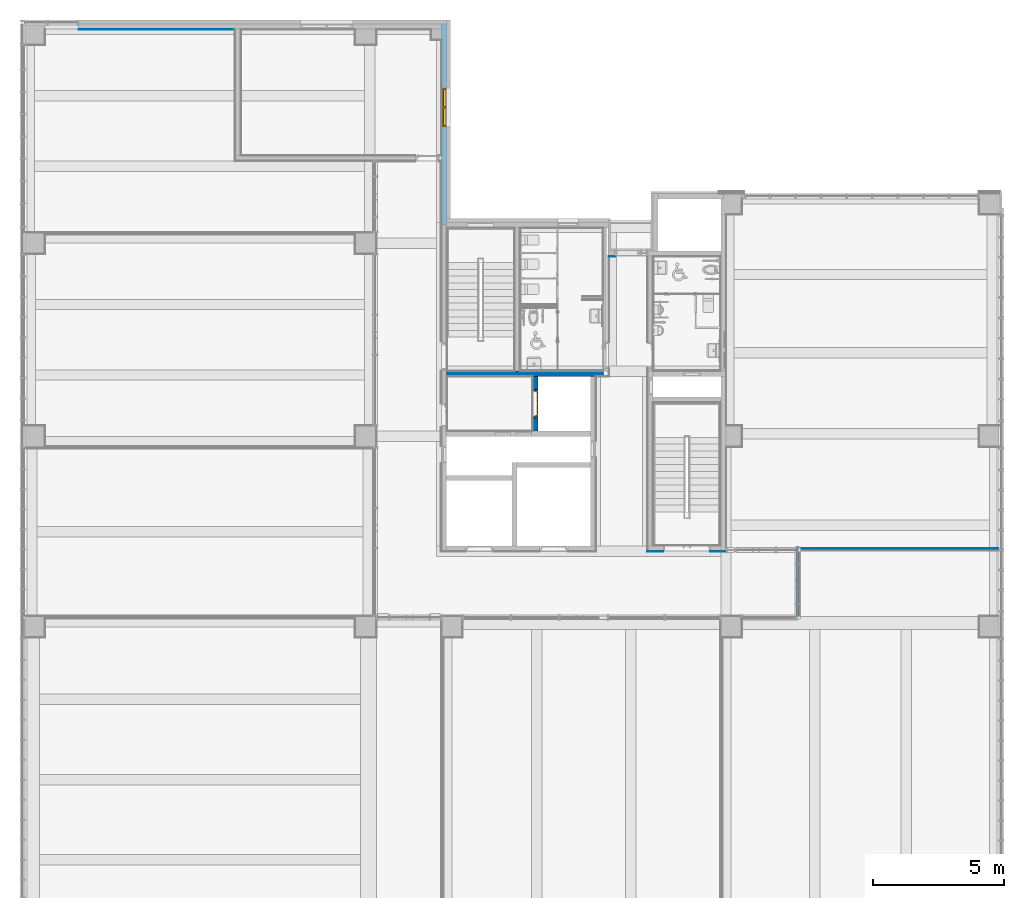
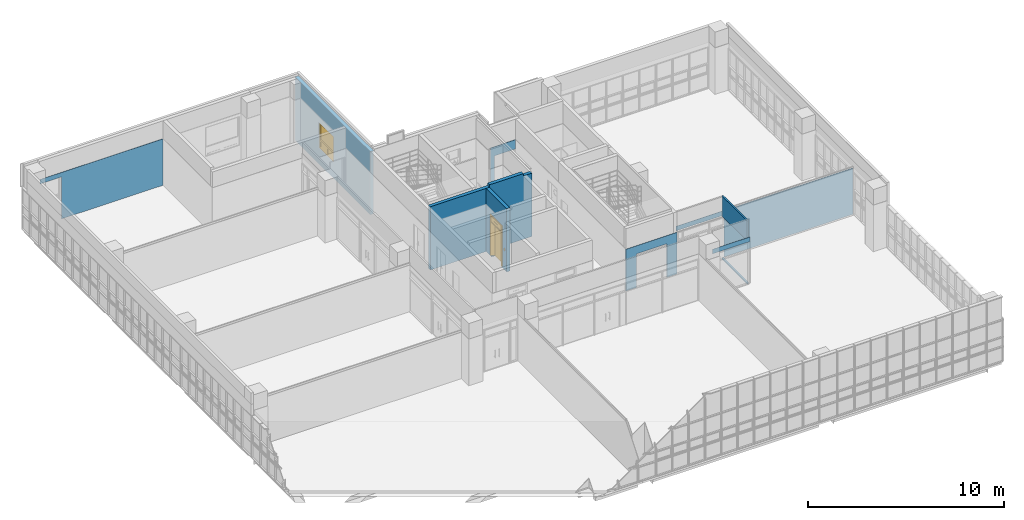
# One storey, part 64 of 76: 8 walls, 1 door, 1 window, 2 openings, plus 1 element that does not belong to this part.
"""IFC2X3 building model written with IfcOpenShell, lengths in millimetres."""

from ifc_helpers import new_model, entity, si_unit, converted_unit, derived_unit, direction, frame, frame_2d, origin, place, context, subcontext, project, spatial, polyline, rectangle, extrude, clip, bounded_halfspace, faceted_brep, source, transform, mapped, material, material_list, layer, layer_set, layer_usage, type_object, type_shapes, element, fill, save


model = new_model("IFC2X3")

# Units and contexts
model_context = context("Model", 3, precision=0.01, world=origin(), true_north=direction((6.123031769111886e-17, 1.0)))
body_context = subcontext(model_context, "Body", "Model", "MODEL_VIEW")
ifc_project = project(units=[si_unit("LENGTHUNIT", "METRE", prefix="MILLI"), si_unit("AREAUNIT", "SQUARE_METRE"), si_unit("VOLUMEUNIT", "CUBIC_METRE"), converted_unit("PLANEANGLEUNIT", "DEGREE", entity("IfcRatioMeasure", 0.017453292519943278), si_unit("PLANEANGLEUNIT", "RADIAN"), dimensions=[0, 0, 0, 0, 0, 0, 0]), si_unit("MASSUNIT", "GRAM", prefix="KILO"), derived_unit("MASSDENSITYUNIT", [(si_unit("MASSUNIT", "GRAM", prefix="KILO"), 1), (si_unit("LENGTHUNIT", "METRE"), -3)]), derived_unit("MOMENTOFINERTIAUNIT", [(si_unit("LENGTHUNIT", "METRE"), 4)]), si_unit("TIMEUNIT", "SECOND"), si_unit("FREQUENCYUNIT", "HERTZ"), si_unit("THERMODYNAMICTEMPERATUREUNIT", "DEGREE_CELSIUS"), derived_unit("THERMALTRANSMITTANCEUNIT", [(si_unit("MASSUNIT", "GRAM", prefix="KILO"), 1), (si_unit("THERMODYNAMICTEMPERATUREUNIT", "KELVIN"), -1), (si_unit("TIMEUNIT", "SECOND"), -3)]), derived_unit("VOLUMETRICFLOWRATEUNIT", [(si_unit("LENGTHUNIT", "METRE"), 3), (si_unit("TIMEUNIT", "SECOND"), -1)]), derived_unit("MASSFLOWRATEUNIT", [(si_unit("MASSUNIT", "GRAM", prefix="KILO"), 1), (si_unit("TIMEUNIT", "SECOND"), -1)]), derived_unit("ROTATIONALFREQUENCYUNIT", [(si_unit("TIMEUNIT", "SECOND"), -1)]), si_unit("ELECTRICCURRENTUNIT", "AMPERE"), si_unit("ELECTRICVOLTAGEUNIT", "VOLT"), si_unit("POWERUNIT", "WATT"), si_unit("FORCEUNIT", "NEWTON", prefix="KILO"), si_unit("ILLUMINANCEUNIT", "LUX"), si_unit("LUMINOUSFLUXUNIT", "LUMEN"), si_unit("LUMINOUSINTENSITYUNIT", "CANDELA"), derived_unit("USERDEFINED", [(si_unit("MASSUNIT", "GRAM", prefix="KILO"), -1), (si_unit("LENGTHUNIT", "METRE"), -2), (si_unit("TIMEUNIT", "SECOND"), 3), (si_unit("LUMINOUSFLUXUNIT", "LUMEN"), 1)]), derived_unit("SOUNDPOWERUNIT", [(si_unit("MASSUNIT", "GRAM", prefix="KILO"), 1), (si_unit("LENGTHUNIT", "METRE"), 2), (si_unit("TIMEUNIT", "SECOND"), -3)]), derived_unit("SOUNDPRESSUREUNIT", [(si_unit("MASSUNIT", "GRAM", prefix="KILO"), 1), (si_unit("LENGTHUNIT", "METRE"), -1), (si_unit("TIMEUNIT", "SECOND"), -2)]), derived_unit("LINEARVELOCITYUNIT", [(si_unit("LENGTHUNIT", "METRE"), 1), (si_unit("TIMEUNIT", "SECOND"), -1)]), si_unit("PRESSUREUNIT", "PASCAL"), derived_unit("USERDEFINED", [(si_unit("LENGTHUNIT", "METRE"), -2), (si_unit("MASSUNIT", "GRAM", prefix="KILO"), 1), (si_unit("TIMEUNIT", "SECOND"), -2)]), derived_unit("LINEARFORCEUNIT", [(si_unit("MASSUNIT", "GRAM", prefix="KILO"), 1), (si_unit("LENGTHUNIT", "METRE"), 1), (si_unit("TIMEUNIT", "SECOND"), -2), (si_unit("LENGTHUNIT", "METRE"), -1)]), derived_unit("PLANARFORCEUNIT", [(si_unit("MASSUNIT", "GRAM", prefix="KILO"), 1), (si_unit("LENGTHUNIT", "METRE"), 1), (si_unit("TIMEUNIT", "SECOND"), -2), (si_unit("LENGTHUNIT", "METRE"), -2)])], contexts=[model_context])

# Site, building, storey
site_placement = place(None, frame((-14167.972527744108, -657.2125860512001, 0.0)))
site = spatial("IfcSite", under=ifc_project, at=site_placement, Name="Default", CompositionType="ELEMENT")
building_placement = place(site_placement, origin())
building = spatial("IfcBuilding", under=site, at=building_placement, Name="Sample Building", CompositionType="ELEMENT")
storey_placement = place(building_placement, frame((0.0, 0.0, 9300.0)))
storey = spatial("IfcBuildingStorey", under=building, at=storey_placement, Name="지상 3층", CompositionType="ELEMENT", Elevation=9300.000000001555)

# Wall
ifc_material_1 = material(Name="KBIMS-콘크리트")
ifc_layer_1 = layer(ifc_material_1, 200.0)
ifc_layer_set_1 = layer_set([ifc_layer_1], Name="기본 벽:WA111-철근콘크리트구조 벽 200mm_CW1")
wall_type_1 = type_object("IfcWallType", Name="기본 벽:WA111-철근콘크리트구조 벽 200mm_CW1", PredefinedType="STANDARD", material=ifc_layer_set_1)
wall_1_placement = place(storey_placement, frame((30267.963761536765, 22357.21231133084, -2.297844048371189e-09)))
element("IfcWall", 1, at=wall_1_placement, inside=storey, type_object=wall_type_1, Name="기본 벽:WA111-철근콘크리트구조 벽 200mm_CW1", ObjectType="기본 벽:WA111-철근콘크리트구조 벽 200mm_CW1", context=body_context, shape_type="Brep", body=[
    faceted_brep([(0.0, -100.0, 0.0), (3298.162052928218, -100.0, 0.0), (3300.0087295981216, -100.0, 0.0), (3500.0087295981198, -100.0, 0.0), (5500.008729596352, -100.0, 0.0), (5700.008729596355, -100.0, 0.0), (6000.000036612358, -100.0, 0.0), (6000.000036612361, -100.0, 3950.0), (5899.991380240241, -100.0, 3950.0), (5700.008729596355, -100.0, 3950.0), (5500.0087295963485, -100.0, 3950.0), (5500.0087295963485, -100.0, 4100.0), (3500.0087295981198, -100.0, 4100.0), (3500.0087295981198, -100.0, 3950.0), (3300.0087295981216, -100.0, 3950.0), (0.0, -100.0, 3950.0), (0.0, -100.0, 80.0), (6000.000036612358, 100.0, 0.0), (2800.0087295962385, 100.0, 0.0), (2600.0087295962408, 100.0, 0.0), (0.0, 100.0, 0.0), (0.0, 100.0, 3950.0), (3500.0087295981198, 100.0, 3950.0), (3500.0087295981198, 100.0, 4100.0), (5500.0087295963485, 100.0, 4100.0), (5500.0087295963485, 100.0, 3950.0), (6000.000036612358, 100.0, 3950.0), (6000.000036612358, 100.0, 3900.0), (6000.000036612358, 100.0, 3700.0)], [[[0, 1, 2, 3, 4, 5, 6, 7, 8, 9, 10, 11, 12, 13, 14, 15, 16]], [[17, 18, 19, 20, 21, 22, 23, 24, 25, 26, 27, 28]], [[6, 5, 4, 3, 2, 1, 0, 20, 19, 18, 17]], [[12, 11, 24, 23]], [[20, 0, 16, 15, 21]], [[6, 17, 28, 27, 26, 7]], [[13, 22, 21, 15, 14]], [[22, 13, 12, 23]], [[10, 25, 24, 11]], [[25, 10, 9, 8, 7, 26]]]),
])

# Wall, opening, door
wall_2_placement = place(storey_placement, frame((33667.97249113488, 22257.212311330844, -2.297844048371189e-09), z_axis=(0.0, 0.0, 1.0), x_axis=(0.0, -1.0, 0.0)))
wall_2 = element("IfcWall", 2, at=wall_2_placement, inside=storey, type_object=wall_type_1, Name="기본 벽:WA111-철근콘크리트구조 벽 200mm_CW1", ObjectType="기본 벽:WA111-철근콘크리트구조 벽 200mm_CW1", context=body_context, shape_type="Brep", body=[
    faceted_brep([(2100.0, -100.0, 0.0), (2100.0, -100.0, 3950.0), (0.0, -100.0, 3950.0), (0.0, -100.0, 0.0), (542.891388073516, -100.0, 0.0), (542.891388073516, -100.0, 80.0), (500.0000016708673, -100.0, 80.0), (500.0000016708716, -100.0, 2630.0), (1600.0, -100.0, 2630.0), (1600.0, -100.0, 80.0), (1557.108615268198, -100.0, 80.0), (1557.1086152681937, -100.0, 0.0), (2100.0, 100.0, 0.0), (0.0, 100.0, 0.0), (0.0, 100.0, 3950.0), (2100.0, 100.0, 3950.0), (500.0000016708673, 100.0, 2630.0), (500.0000016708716, 100.0, 80.0), (1600.0, 100.0, 80.0), (1600.0, 100.0, 2630.0), (1529.7770699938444, 98.15332333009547, 0.0), (570.2229333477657, 98.15332333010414, 0.0), (570.2229333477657, 98.15332333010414, 80.0), (1529.7770699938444, 98.15332333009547, 80.0)], [[[0, 1, 2, 3, 4, 5, 6, 7, 8, 9, 10, 11]], [[12, 13, 14, 15], [16, 17, 18, 19]], [[13, 12, 0, 11, 20, 21, 4, 3]], [[13, 3, 2, 14]], [[0, 12, 15, 1]], [[2, 1, 15, 14]], [[21, 22, 5, 4]], [[22, 21, 20, 23]], [[23, 20, 11, 10]], [[7, 6, 17, 16]], [[8, 7, 16, 19]], [[9, 8, 19, 18]], [[18, 17, 6, 5, 22, 23, 10, 9]]]),
])
opening_1_placement = place(wall_2_placement, frame((500.0000016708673, -100.0, 80.0)))
opening_1 = element("IfcOpeningElement", 3, at=opening_1_placement, cuts=wall_2, Name="EE111-엘리베이터문(문):EE111-엘리베이터문(13인승)_1100x2550:1", ObjectType="Opening", context=body_context, shape_type="SweptSolid", body=[
    extrude(rectangle(XDim=2549.999999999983, YDim=1099.9999999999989, at=frame_2d((1274.9999999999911, 550.0000000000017), x_axis=(1.0, 0.0))), frame((0.0, 0.0, 0.0), z_axis=(0.0, 1.0, 0.0), x_axis=(0.0, 0.0, 1.0)), (0.0, 0.0, 1.0), 200.0),
])
ifc_material_2 = material(Name="<Unnamed>")
ifc_material_list_1 = material_list([ifc_material_2, ifc_material_2, ifc_material_2, ifc_material_2])
door_style = type_object("IfcDoorStyle", Name="EE111-엘리베이터문(문):EE111-엘리베이터문(13인승)_1100x2550", ConstructionType="NOTDEFINED", OperationType="DOUBLE_DOOR_SLIDING", ParameterTakesPrecedence=False, Sizeable=False, material=ifc_material_list_1)
shared_shape_1 = source(origin(), body_context, "Body", "Brep", [
    faceted_brep([(-296.2736811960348, 220.43384628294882, 1175.0), (-313.5941892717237, 220.4338462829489, 1145.0), (-330.9146973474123, 220.43384628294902, 1175.0), (-296.2736811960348, 215.04269782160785, 1175.0), (-330.9146973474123, 215.0426978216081, 1175.0), (-313.5941892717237, 215.04269782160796, 1145.0)], [[[0, 1, 2]], [[3, 4, 5]], [[1, 0, 3, 5]], [[2, 1, 5, 4]], [[0, 2, 4, 3]]]),
    faceted_brep([(-330.9146973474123, 220.43384628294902, 1225.0), (-296.2736811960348, 220.43384628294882, 1225.0), (-296.2736811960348, 215.04269782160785, 1225.0), (-330.9146973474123, 215.04269782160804, 1225.0), (-313.5941892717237, 220.4338462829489, 1255.0), (-313.5941892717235, 215.04269782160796, 1255.0)], [[[0, 1, 2, 3]], [[4, 0, 3, 5]], [[1, 4, 5, 2]], [[2, 5, 3]], [[1, 0, 4]]]),
    faceted_brep([(-351.5567877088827, 215.0426978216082, 1277.0326998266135), (-275.63159083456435, 215.04269782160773, 1277.0326998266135), (-275.63159083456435, 215.04269782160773, 1122.967300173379), (-351.5567877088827, 215.0426978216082, 1122.967300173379), (-351.55678770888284, 200.0, 1277.0326998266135), (-351.55678770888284, 200.0, 1122.967300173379), (-275.6315908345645, 200.0, 1122.967300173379), (-275.6315908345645, 200.0, 1277.0326998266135)], [[[0, 1, 2, 3]], [[4, 5, 6, 7]], [[1, 0, 4, 7]], [[2, 1, 7, 6]], [[3, 2, 6, 5]], [[0, 3, 5, 4]]]),
    faceted_brep([(-60.0, 200.0, 2550.0), (-60.0, 240.0, 2550.0), (-60.0, 240.0, 0.0), (-60.0, 200.0, 0.0), (703.014298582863, 240.0, 2550.0), (703.014298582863, 240.0, 2500.0), (27.911234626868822, 240.0, 2500.0), (27.911234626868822, 240.0, 2150.0), (703.014298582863, 240.0, 2150.0), (703.014298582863, 240.0, 2100.0), (27.911234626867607, 240.0, 2100.0), (27.911234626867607, 240.0, 0.0), (978.5926496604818, 40.0, 0.0), (1078.5926496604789, 240.0, 0.0), (1160.0, 240.0, 0.0), (1160.0, 200.0, 0.0), (1100.0, 200.0, 0.0), (1000.0, 0.0, 0.0), (555.0, 0.0, 0.0), (555.0, 40.0, 0.0), (0.0, 200.0, 2550.0), (0.0, 200.0, 0.0), (100.0, 0.0, 2550.0), (100.0, 0.0, 0.0), (1000.0, 0.0, 2550.0), (545.0, 0.0, 0.0), (545.0, 0.0, 2100.0), (555.0, 0.0, 2100.0), (545.0, 40.0, 0.0), (545.0, 40.0, 2100.0), (555.0, 40.0, 2100.0), (1100.0, 200.0, 2550.0), (1160.0, 200.0, 2550.0), (1160.0, 240.0, 2550.0), (1078.5926496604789, 240.0, 2100.0), (1078.5926496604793, 240.0, 2150.0), (1078.5926496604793, 240.0, 2500.0), (978.5926496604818, 40.0, 2100.0), (127.91123462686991, 40.0, 0.0), (127.91123462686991, 40.0, 2100.0), (1078.5926496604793, 214.08728771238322, 2150.0), (1078.5926496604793, 214.08728771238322, 2500.0), (27.911234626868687, 214.0872877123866, 2500.0), (27.911234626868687, 214.0872877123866, 2150.0), (550.0, 214.08728771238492, 2370.0), (410.8272722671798, 214.08728771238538, 2370.0), (410.8272722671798, 214.08728771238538, 2300.0), (550.0, 214.08728771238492, 2300.0), (789.172727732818, 214.08728771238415, 2300.0), (789.172727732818, 214.08728771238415, 2370.0), (550.0, 208.4787281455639, 2370.0), (410.8272722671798, 208.47872814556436, 2370.0), (410.8272722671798, 208.47872814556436, 2300.0), (789.172727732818, 208.47872814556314, 2300.0), (789.172727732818, 208.47872814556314, 2370.0), (550.0, 208.4787281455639, 2300.0)], [[[0, 1, 2, 3]], [[2, 1, 4, 5, 6, 7, 8, 9, 10, 11]], [[12, 13, 14, 15, 16, 17, 18, 19]], [[20, 0, 3, 21]], [[22, 20, 21, 23]], [[24, 22, 23, 25, 26, 27, 18, 17]], [[25, 28, 29, 26]], [[19, 18, 27, 30]], [[31, 24, 17, 16]], [[32, 31, 16, 15]], [[33, 32, 15, 14]], [[4, 33, 14, 13, 34, 9, 8, 35, 36, 5]], [[13, 12, 37, 34]], [[38, 11, 10, 39]], [[38, 39, 29, 28]], [[37, 12, 19, 30]], [[1, 0, 20, 22, 24, 31, 32, 33, 4]], [[40, 41, 36, 35]], [[41, 42, 6, 5, 36]], [[42, 43, 7, 6]], [[43, 42, 41, 40], [44, 45, 46, 47, 48, 49]], [[50, 51, 45, 44]], [[51, 52, 46, 45]], [[53, 54, 49, 48]], [[54, 50, 44, 49]], [[50, 54, 53, 55, 52, 51]], [[10, 9, 34, 37, 30, 27, 26, 29, 39]], [[43, 40, 35, 8, 7]], [[52, 55, 47, 46]], [[55, 53, 48, 47]], [[21, 3, 2, 11, 38, 28, 25, 23]]]),
])
type_shapes(door_style, [shared_shape_1])
door_placement = place(opening_1_placement, frame((1100.0, 200.0, 2.2973836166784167e-09), z_axis=(0.0, 0.0, 1.0), x_axis=(-1.0, 0.0, 0.0)))
door = element("IfcDoor", 4, at=door_placement, inside=storey, type_object=door_style, material=ifc_material_2, Name="EE111-엘리베이터문(문):EE111-엘리베이터문(13인승)_1100x2550", ObjectType="EE111-엘리베이터문(문):EE111-엘리베이터문(13인승)_1100x2550", OverallHeight=2549.9999999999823, OverallWidth=1100.0000000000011, context=body_context, shape_type="MappedRepresentation", body=[
    mapped(shared_shape_1, transform((0.0, 0.0, 0.0), scale=1.0)),
])
fill(opening_1, door)

# Wall, opening, window
ifc_layer_2 = layer(ifc_material_1, 200.0)
ifc_layer_set_2 = layer_set([ifc_layer_2], Name="기본 벽:WA111-철근콘크리트구조 벽 200mm_W1")
ifc_layer_usage = layer_usage(ifc_layer_set_2, "AXIS2", "NEGATIVE", 100.0)
wall_type_2 = type_object("IfcWallType", Name="기본 벽:WA111-철근콘크리트구조 벽 200mm_W1", PredefinedType="STANDARD", material=ifc_layer_set_2)
wall_3_placement = place(storey_placement, frame((30167.96376153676, 28057.212307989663, -2.297844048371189e-09), z_axis=(0.0, 0.0, 1.0), x_axis=(0.0, 1.0, 0.0)))
wall_3 = element("IfcWallStandardCase", 5, at=wall_3_placement, inside=storey, type_object=wall_type_2, material=ifc_layer_usage, Name="기본 벽:WA111-철근콘크리트구조 벽 200mm_W1", ObjectType="기본 벽:WA111-철근콘크리트구조 벽 200mm_W1", context=body_context, shape_type="Clipping", body=[
    clip(extrude(rectangle(XDim=7699.999987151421, YDim=200.00000000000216, at=frame_2d((3849.9999935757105, -2.1671553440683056e-12), x_axis=(-1.0, 0.0))), origin(), (0.0, 0.0, 1.0), 3950.0000000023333), bounded_halfspace(frame((0.0, -100.0, 3950.0), z_axis=(0.0, 0.0, -1.0), x_axis=(0.0, -1.0, 0.0)), True, frame((0.0, -100.0, 3950.0), z_axis=(0.0, 0.0, -1.0), x_axis=(0.0, -1.0, 0.0)), polyline([(0.0, 0.0), (-60960.0, 0.0), (-60960.0, -30480.09028257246), (-60960.0, -2164080.0941984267), (-60960.0, -2286000.0), (-60960.0, -2346960.0), (0.0, -2346960.0), (0.0, 0.0)]))),
])
opening_2_placement = place(wall_3_placement, frame((3749.9999871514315, -100.0, 1000.0)))
opening_2 = element("IfcOpeningElement", 6, at=opening_2_placement, cuts=wall_3, Name="WD842-2단 하부 더블 프로젝트 창(스테인리스 스틸):WD842-2단 하부 더블 프로젝트 창(스테인리스 스틸)_1500x1600mm:1", ObjectType="Opening", context=body_context, shape_type="SweptSolid", body=[
    extrude(rectangle(XDim=1600.0000000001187, YDim=1499.9999999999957, at=frame_2d((800.0000000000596, 749.9999999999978), x_axis=(1.0, 0.0))), frame((0.0, 0.0, 0.0), z_axis=(0.0, 1.0, 0.0), x_axis=(0.0, 0.0, 1.0)), (0.0, 0.0, 1.0), 200.0),
])
ifc_material_3 = material(Name="KBIMS-스테인리스 스틸_도금")
ifc_material_4 = material(Name="KBIMS-유리")
ifc_material_list_2 = material_list([ifc_material_3, ifc_material_4, ifc_material_3, ifc_material_4, ifc_material_3, ifc_material_3, ifc_material_4])
ifc_material_list_3 = material_list([ifc_material_3, ifc_material_4, ifc_material_3, ifc_material_4, ifc_material_3, ifc_material_3, ifc_material_4])
window_style = type_object("IfcWindowStyle", Name="WD842-2단 하부 더블 프로젝트 창(스테인리스 스틸):WD842-2단 하부 더블 프로젝트 창(스테인리스 스틸)_1500x1600mm", ConstructionType="NOTDEFINED", OperationType="NOTDEFINED", ParameterTakesPrecedence=False, Sizeable=False, material=ifc_material_list_3)
shared_shape_2 = source(origin(), body_context, "Body", "Brep", [
    faceted_brep([(1440.0, 37.49999999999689, 470.0), (780.0, 37.49999999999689, 470.0), (780.0, 162.4999999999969, 470.0), (1440.0, 162.4999999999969, 470.0), (1500.0, 162.4999999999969, 530.0), (1440.0, 162.4999999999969, 530.0), (60.0, 162.4999999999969, 530.0), (0.0, 162.4999999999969, 530.0), (0.0, 37.49999999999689, 530.0), (60.0, 37.49999999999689, 530.0), (1440.0, 37.49999999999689, 530.0), (1500.0, 37.49999999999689, 530.0), (60.0, 37.49999999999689, 470.0), (60.0, 37.49999999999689, 60.0), (60.0, 162.4999999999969, 60.0), (60.0, 162.4999999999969, 470.0), (0.0, 162.4999999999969, 0.0), (0.0, 37.49999999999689, 0.0), (720.0, 37.49999999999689, 60.0), (720.0, 162.4999999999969, 60.0), (1500.0, 162.4999999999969, 0.0), (1500.0, 37.49999999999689, 0.0), (1440.0, 162.4999999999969, 60.0), (1440.0, 37.49999999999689, 60.0), (720.0, 37.49999999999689, 470.0), (780.0, 37.49999999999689, 60.0), (720.0, 162.4999999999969, 470.0), (780.0, 162.4999999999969, 60.0)], [[[0, 1, 2, 3]], [[4, 5, 6, 7, 8, 9, 10, 11]], [[12, 13, 14, 15]], [[7, 16, 17, 8]], [[13, 18, 19, 14]], [[16, 20, 21, 17]], [[3, 22, 23, 0]], [[8, 17, 21, 11, 10, 9], [12, 24, 18, 13], [0, 23, 25, 1]], [[11, 21, 20, 4]], [[14, 19, 26, 15], [22, 3, 2, 27], [4, 20, 16, 7, 6, 5]], [[19, 18, 24, 26]], [[2, 1, 25, 27]], [[22, 27, 25, 23]], [[15, 26, 24, 12]]], outer=[[True], [True], [True], [True], [True], [True], [True], [True, False, False], [True], [False, False, True], [True], [True], [True], [True]]),
    faceted_brep([(820.0, 151.0, 430.0), (820.0, 151.0, 100.0), (820.0, 139.0, 100.0), (820.0, 139.0, 430.0), (1400.0, 139.0, 100.0), (1400.0, 139.0, 430.0), (1400.0, 151.0, 100.0), (1400.0, 151.0, 430.0)], [[[0, 1, 2, 3]], [[3, 2, 4, 5]], [[5, 4, 6, 7]], [[0, 3, 5, 7]], [[1, 6, 4, 2]], [[7, 6, 1, 0]]]),
    faceted_brep([(1390.0, 151.0, 420.0), (830.0, 151.0, 420.0), (830.0, 160.0, 420.0), (1390.0, 160.0, 420.0), (1400.0, 139.0, 430.0), (820.0, 139.0, 430.0), (820.0, 151.0, 430.0), (1400.0, 151.0, 430.0), (1390.0, 130.0, 420.0), (830.0, 130.0, 420.0), (830.0, 139.0, 420.0), (1390.0, 139.0, 420.0), (1440.0, 160.0, 470.0), (780.0, 160.0, 470.0), (780.0, 130.0, 470.0), (1440.0, 130.0, 470.0), (830.0, 151.0, 110.0), (830.0, 160.0, 110.0), (820.0, 139.0, 100.0), (820.0, 151.0, 100.0), (830.0, 130.0, 110.0), (830.0, 139.0, 110.0), (780.0, 160.0, 60.0), (780.0, 130.0, 60.0), (1390.0, 151.0, 110.0), (1390.0, 160.0, 110.0), (1400.0, 139.0, 100.0), (1400.0, 151.0, 100.0), (1390.0, 130.0, 110.0), (1390.0, 139.0, 110.0), (1440.0, 160.0, 60.0), (1440.0, 130.0, 60.0)], [[[0, 1, 2, 3]], [[4, 5, 6, 7]], [[8, 9, 10, 11]], [[12, 13, 14, 15]], [[1, 16, 17, 2]], [[5, 18, 19, 6]], [[9, 20, 21, 10]], [[13, 22, 23, 14]], [[16, 24, 25, 17]], [[18, 26, 27, 19]], [[20, 28, 29, 21]], [[22, 30, 31, 23]], [[24, 0, 3, 25]], [[7, 6, 19, 27], [1, 0, 24, 16]], [[26, 4, 7, 27]], [[11, 10, 21, 29], [5, 4, 26, 18]], [[28, 8, 11, 29]], [[15, 14, 23, 31], [9, 8, 28, 20]], [[30, 12, 15, 31]], [[3, 2, 17, 25], [13, 12, 30, 22]]], outer=[[True], [True], [True], [True], [True], [True], [True], [True], [True], [True], [True], [True], [True], [True, False], [True], [False, True], [True], [True, False], [True], [False, True]]),
    faceted_brep([(100.0, 151.0, 430.0), (100.0, 139.0, 430.0), (680.0, 139.0, 430.0), (680.0, 151.0, 430.0), (100.0, 151.0, 100.0), (680.0, 151.0, 100.0), (680.0, 139.0, 100.0), (100.0, 139.0, 100.0)], [[[0, 1, 2, 3]], [[4, 5, 6, 7]], [[3, 5, 4, 0]], [[2, 6, 5, 3]], [[1, 7, 6, 2]], [[0, 4, 7, 1]]]),
    faceted_brep([(680.0, 139.0, 100.0), (680.0, 139.0, 430.0), (680.0, 151.0, 430.0), (680.0, 151.0, 100.0), (100.0, 151.0, 430.0), (100.0, 151.0, 100.0), (110.0, 151.0, 420.0), (670.0, 151.0, 420.0), (670.0, 151.0, 110.0), (110.0, 151.0, 110.0), (670.0, 160.0, 420.0), (670.0, 160.0, 110.0), (110.0, 160.0, 110.0), (110.0, 160.0, 420.0), (100.0, 139.0, 430.0), (100.0, 139.0, 100.0), (110.0, 130.0, 420.0), (110.0, 130.0, 110.0), (110.0, 139.0, 110.0), (110.0, 139.0, 420.0), (670.0, 130.0, 420.0), (670.0, 139.0, 420.0), (720.0, 160.0, 470.0), (60.0, 160.0, 470.0), (60.0, 130.0, 470.0), (720.0, 130.0, 470.0), (60.0, 160.0, 60.0), (60.0, 130.0, 60.0), (670.0, 130.0, 110.0), (670.0, 139.0, 110.0), (720.0, 160.0, 60.0), (720.0, 130.0, 60.0)], [[[0, 1, 2, 3]], [[2, 4, 5, 3], [6, 7, 8, 9]], [[8, 7, 10, 11]], [[6, 9, 12, 13]], [[14, 15, 5, 4]], [[16, 17, 18, 19]], [[7, 6, 13, 10]], [[1, 14, 4, 2]], [[20, 16, 19, 21]], [[22, 23, 24, 25]], [[23, 26, 27, 24]], [[9, 8, 11, 12]], [[15, 0, 3, 5]], [[17, 28, 29, 18]], [[26, 30, 31, 27]], [[21, 19, 18, 29], [14, 1, 0, 15]], [[28, 20, 21, 29]], [[25, 24, 27, 31], [16, 20, 28, 17]], [[30, 22, 25, 31]], [[10, 13, 12, 11], [23, 22, 30, 26]]], outer=[[True], [True, False], [True], [True], [True], [True], [True], [True], [True], [True], [True], [True], [True], [True], [True], [False, True], [True], [True, False], [True], [False, True]]),
    faceted_brep([(1440.0, 37.50000000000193, 1540.0), (60.0, 37.50000000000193, 1540.0), (60.0, 162.50000000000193, 1540.0), (1440.0, 162.50000000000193, 1540.0), (1500.0, 162.50000000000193, 1600.0), (0.0, 162.50000000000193, 1600.0), (0.0, 37.50000000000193, 1600.0), (1500.0, 37.50000000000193, 1600.0), (60.0, 37.50000000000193, 530.0), (60.0, 162.50000000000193, 530.0), (0.0, 162.50000000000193, 530.0), (0.0, 37.50000000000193, 530.0), (1440.0, 162.50000000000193, 530.0), (1440.0, 37.50000000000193, 530.0), (1500.0, 37.50000000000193, 530.0), (1500.0, 162.50000000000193, 530.0)], [[[0, 1, 2, 3]], [[4, 5, 6, 7]], [[1, 8, 9, 2]], [[5, 10, 11, 6]], [[3, 12, 13, 0]], [[0, 13, 14, 7, 6, 11, 8, 1]], [[7, 14, 15, 4]], [[2, 9, 10, 5, 4, 15, 12, 3]], [[12, 15, 14, 13]], [[8, 11, 10, 9]]]),
    faceted_brep([(60.0, 106.0, 1540.0), (60.0, 94.0, 1540.0), (1440.0, 94.0, 1540.0), (1440.0, 106.0, 1540.0), (1440.0, 106.0, 530.0), (60.0, 106.0, 530.0), (1440.0, 94.0, 530.0), (60.0, 94.0, 530.0)], [[[0, 1, 2, 3]], [[3, 4, 5, 0]], [[2, 6, 4, 3]], [[1, 7, 6, 2]], [[0, 5, 7, 1]], [[4, 6, 7, 5]]]),
])
type_shapes(window_style, [shared_shape_2])
window_placement = place(opening_2_placement, frame((0.0, 0.0, 2.2973836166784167e-09)))
window = element("IfcWindow", 7, at=window_placement, inside=storey, type_object=window_style, material=ifc_material_list_2, Name="WD842-2단 하부 더블 프로젝트 창(스테인리스 스틸):WD842-2단 하부 더블 프로젝트 창(스테인리스 스틸)_1500x1600mm", ObjectType="WD842-2단 하부 더블 프로젝트 창(스테인리스 스틸):WD842-2단 하부 더블 프로젝트 창(스테인리스 스틸)_1500x1600mm", OverallHeight=1600.0000000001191, OverallWidth=1499.9999999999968, context=body_context, shape_type="MappedRepresentation", body=[
    mapped(shared_shape_2, transform((0.0, 0.0, 0.0), scale=1.0)),
])
fill(opening_2, window)

# Walls
ifc_material_5 = material(Name="KBIMS-시멘트 벽돌")
ifc_layer_3 = layer(ifc_material_5, 90.0)
ifc_layer_set_3 = layer_set([ifc_layer_3], Name="기본 벽:WA211-시멘트벽돌(일반) 벽 (0.5B) 90mm")
wall_type_3 = type_object("IfcWallType", Name="기본 벽:WA211-시멘트벽돌(일반) 벽 (0.5B) 90mm", PredefinedType="STANDARD", material=ifc_layer_set_3)
wall_4_placement = place(storey_placement, frame((43717.972491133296, 13057.21238308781, -2.297844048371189e-09), z_axis=(0.0, 0.0, 1.0), x_axis=(0.0, 1.0, 0.0)))
element("IfcWall", 8, at=wall_4_placement, inside=storey, type_object=wall_type_3, Name="기본 벽:WA211-시멘트벽돌(일반) 벽 (0.5B) 90mm", ObjectType="기본 벽:WA211-시멘트벽돌(일반) 벽 (0.5B) 90mm", context=body_context, shape_type="Brep", body=[
    faceted_brep([(0.0, -45.0, 0.0), (2594.9652949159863, -45.0, 0.0), (2594.9652949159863, -45.0, 80.0), (0.0, -45.0, 80.0), (2594.9652949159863, 45.0, 0.0), (2504.965294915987, 45.0, 0.0), (0.0, 45.0, 0.0), (0.0, 45.0, 80.0), (2504.965294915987, 45.0, 80.0), (2594.9652949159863, 45.0, 80.0)], [[[0, 1, 2, 3]], [[4, 5, 6, 7, 8, 9]], [[1, 0, 6, 5, 4]], [[6, 0, 3, 7]], [[3, 2, 9, 8, 7]], [[1, 4, 9, 2]]]),
    faceted_brep([(0.0, -45.0, 3950.0), (2594.9652949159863, -45.0, 3950.0), (2594.9652949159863, 45.0, 3950.0), (2504.965294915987, 45.0, 3950.0), (0.0, 45.0, 3950.0), (0.0, 45.0, 2700.0), (2504.965294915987, 45.0, 2700.0), (2594.9652949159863, 45.0, 2700.0), (2594.9652949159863, -45.0, 2700.0), (2590.480061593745, -45.0, 2700.0), (2589.984050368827, -44.73898654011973, 2700.0), (0.0, -44.73898654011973, 2700.0), (2589.984050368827, -44.73898654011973, 2980.0), (0.0, -44.73898654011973, 2980.0), (2590.4800615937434, -45.0, 2980.0), (0.0, -45.0, 2980.0)], [[[0, 1, 2, 3, 4]], [[5, 6, 7, 8, 9, 10, 11]], [[2, 1, 8, 7]], [[10, 12, 13, 11]], [[13, 12, 14, 15]], [[12, 10, 9, 14]], [[0, 4, 5, 11, 13, 15]], [[4, 3, 2, 7, 6, 5]], [[1, 0, 15, 14, 9, 8]]]),
])
ifc_material_6 = material(Name="WA611-수성페인트 (내부) 벽 (3회)")
ifc_layer_4 = layer(ifc_material_6, 1.0)
ifc_material_7 = material(Name="WA551-시멘트모르타르 (내부) 벽 18mm")
ifc_layer_5 = layer(ifc_material_7, 16.0)
ifc_material_8 = material(Name="WA555-콘크리트면정리 벽 (내부)")
ifc_layer_6 = layer(ifc_material_8, 1.0)
ifc_layer_set_4 = layer_set([ifc_layer_4, ifc_layer_5, ifc_layer_6], Name="기본 벽:A1-32-06A-콘크리트면정리, 시멘트모르타르(미장용), 수성페인트(내부) (18mm)")
wall_type_4 = type_object("IfcWallType", Name="기본 벽:A1-32-06A-콘크리트면정리, 시멘트모르타르(미장용), 수성페인트(내부) (18mm)", PredefinedType="STANDARD", material=ifc_layer_set_4)
wall_5_placement = place(storey_placement, frame((22149.972491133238, 35548.21229514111, 80.0), z_axis=(0.0, 0.0, 1.0), x_axis=(-1.0, 0.0, 0.0)))
element("IfcWall", 9, at=wall_5_placement, inside=storey, type_object=wall_type_4, Name="기본 벽:A1-32-06A-콘크리트면정리, 시멘트모르타르(미장용), 수성페인트(내부) (18mm)", ObjectType="기본 벽:A1-32-06A-콘크리트면정리, 시멘트모르타르(미장용), 수성페인트(내부) (18mm)", context=body_context, shape_type="Brep", body=[
    faceted_brep([(7264.0000366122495, -9.0, 2900.0), (0.0, -9.0, 2900.0), (0.0, -9.0, 0.0), (5982.63283629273, -9.0, 0.0), (5982.63283629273, -9.0, 2620.0), (7264.0000366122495, -9.0, 2620.0), (0.0, 9.0, 2900.0), (7264.0000366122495, 9.0, 2900.0), (7264.000036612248, 9.0, 2620.0), (5982.63283629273, 9.0, 2620.0), (5982.63283629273, 9.0, 0.0), (0.0, 9.0, 0.0)], [[[0, 1, 2, 3, 4, 5]], [[6, 7, 8, 9, 10, 11]], [[2, 11, 10, 3]], [[1, 0, 7, 6]], [[2, 1, 6, 11]], [[7, 0, 5, 8]], [[4, 9, 8, 5]], [[9, 4, 3, 10]]]),
])
wall_6_placement = place(storey_placement, frame((41567.7114776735, 12958.212383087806, 80.0)))
element("IfcWall", 10, at=wall_6_placement, inside=storey, type_object=wall_type_4, Name="기본 벽:A1-32-06A-콘크리트면정리, 시멘트모르타르(미장용), 수성페인트(내부) (18mm)", ObjectType="기본 벽:A1-32-06A-콘크리트면정리, 시멘트모르타르(미장용), 수성페인트(내부) (18mm)", context=body_context, shape_type="Brep", body=[
    faceted_brep([(2213.0, -9.0, 2900.0), (18.0, -9.0, 2900.0), (0.0, -9.0, 2900.0), (0.0, -9.0, 0.0), (0.24625786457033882, -9.0, 0.0), (0.24625786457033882, -9.0, 2620.0), (2213.0, -9.0, 2620.0), (0.0, 9.0, 2900.0), (2195.0, 9.0, 2900.0), (2213.0, 9.0, 2900.0), (2213.0, 9.0, 2620.0), (2195.2610134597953, 9.0, 2620.0), (2195.0, 9.0, 2620.0), (0.24625786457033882, 9.0, 2620.0), (0.24625786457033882, 9.0, 0.0), (0.0, 9.0, 0.0)], [[[0, 1, 2, 3, 4, 5, 6]], [[7, 8, 9, 10, 11, 12, 13, 14, 15]], [[3, 15, 14, 4]], [[2, 1, 0, 9, 8, 7]], [[9, 0, 6, 10]], [[5, 13, 12, 11, 10, 6]], [[3, 2, 7, 15]], [[13, 5, 4, 14]]]),
])
wall_7_placement = place(storey_placement, frame((40967.963798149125, 15666.177624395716, 80.0)))
element("IfcWall", 11, at=wall_7_placement, inside=storey, type_object=wall_type_4, Name="기본 벽:A1-32-06A-콘크리트면정리, 시멘트모르타르(미장용), 수성페인트(내부) (18mm)", ObjectType="기본 벽:A1-32-06A-콘크리트면정리, 시멘트모르타르(미장용), 수성페인트(내부) (18mm)", context=body_context, shape_type="Brep", body=[
    faceted_brep([(10450.000030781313, -9.0, 0.0), (10450.000030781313, -9.0, 2900.0), (0.0, -9.0, 2900.0), (0.0, -9.0, 2620.0), (2850.0, -9.0, 2620.0), (2850.0, -9.0, 0.0), (10450.000030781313, 9.0, 2900.0), (10450.000030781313, 9.0, 0.0), (2850.0, 9.0, 0.0), (2850.0, 9.0, 2620.0), (18.0, 9.0, 2620.0), (18.0, 9.0, 2900.0), (18.0, 8.0, 2900.0), (0.0, 8.0, 2900.0), (0.0, 8.0, 2620.0), (18.0, 8.0, 2620.0)], [[[0, 1, 2, 3, 4, 5]], [[6, 7, 8, 9, 10, 11]], [[7, 0, 5, 8]], [[1, 0, 7, 6]], [[2, 1, 6, 11, 12, 13]], [[3, 2, 13, 14]], [[15, 12, 11, 10]], [[12, 15, 14, 13]], [[4, 9, 8, 5]], [[9, 4, 3, 14, 15, 10]]]),
])
ifc_layer_7 = layer(ifc_material_6, 1.0)
ifc_material_9 = material(Name="WA551-시멘트모르타르 (내부) 벽 24mm")
ifc_layer_8 = layer(ifc_material_9, 21.0)
ifc_material_10 = material(Name="WA961-바닥방수 연장")
ifc_layer_9 = layer(ifc_material_10, 1.0)
ifc_layer_10 = layer(ifc_material_8, 1.0)
ifc_layer_set_5 = layer_set([ifc_layer_7, ifc_layer_8, ifc_layer_9, ifc_layer_10], Name="기본 벽:A1-32-07A-콘크리트면정리, 바닥방수연장, 시멘트모르타르(미장용), 수성페인트(내부) (24mm)")
wall_type_5 = type_object("IfcWallType", Name="기본 벽:A1-32-07A-콘크리트면정리, 바닥방수연장, 시멘트모르타르(미장용), 수성페인트(내부) (24mm)", PredefinedType="STANDARD", material=ifc_layer_set_5)
wall_8_placement = place(storey_placement, frame((40967.963798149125, 15550.177678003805, 80.0), z_axis=(0.0, 0.0, 1.0), x_axis=(-1.0, 0.0, 0.0)))
element("IfcWall", 12, at=wall_8_placement, inside=storey, type_object=wall_type_5, Name="기본 벽:A1-32-07A-콘크리트면정리, 바닥방수연장, 시멘트모르타르(미장용), 수성페인트(내부) (24mm)", ObjectType="기본 벽:A1-32-07A-콘크리트면정리, 바닥방수연장, 시멘트모르타르(미장용), 수성페인트(내부) (24mm)", context=body_context, shape_type="Brep", body=[
    faceted_brep([(3024.2610134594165, -12.0, 0.0), (3024.2610134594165, -12.0, 2600.0), (3000.2610134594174, -12.0, 2600.0), (0.0, -12.0, 2600.0), (0.0, -12.0, 0.0), (600.0, -12.0, 0.0), (600.0, -12.0, 2100.0), (2400.0, -12.0, 2100.0), (2400.0, -12.0, 0.0), (3000.2610134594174, -12.0, 0.0), (3024.261013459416, 12.0, 2600.0), (3024.261013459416, 12.0, 0.0), (2400.0, 12.0, 0.0), (2400.0, 12.0, 2100.0), (600.0, 12.0, 2100.0), (600.0, 12.0, 0.0), (0.0, 12.0, 0.0), (0.0, 12.0, 2600.0)], [[[0, 1, 2, 3, 4, 5, 6, 7, 8, 9]], [[10, 11, 12, 13, 14, 15, 16, 17]], [[15, 5, 4, 16]], [[1, 10, 17, 3, 2]], [[1, 0, 11, 10]], [[14, 6, 5, 15]], [[6, 14, 13, 7]], [[7, 13, 12, 8]], [[4, 3, 17, 16]], [[11, 0, 9, 8, 12]]]),
])
wall_9_placement = place(storey_placement, frame((37943.70278468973, 26845.212295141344, 80.0), z_axis=(0.0, 0.0, 1.0), x_axis=(-1.0, 0.0, 0.0)))
element("IfcWall", 13, at=wall_9_placement, inside=storey, type_object=wall_type_5, Name="기본 벽:A1-32-07A-콘크리트면정리, 바닥방수연장, 시멘트모르타르(미장용), 수성페인트(내부) (24mm)", ObjectType="기본 벽:A1-32-07A-콘크리트면정리, 바닥방수연장, 시멘트모르타르(미장용), 수성페인트(내부) (24mm)", context=body_context, shape_type="Brep", body=[
    faceted_brep([(1475.7389865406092, -12.0, 2600.0), (0.0, -12.0, 2600.0), (0.0, -12.0, 2020.0), (1225.738986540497, -12.0, 2020.0), (1225.738986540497, -12.0, 0.0), (1475.7389865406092, -12.0, 0.0), (0.0, 12.0, 2600.0), (1451.7389680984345, 12.0, 2600.0), (1475.7389865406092, 12.0, 2600.0), (1475.7389865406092, 12.0, 0.0), (1451.7389680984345, 12.0, 0.0), (1225.738986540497, 12.0, 0.0), (1225.738986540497, 12.0, 2020.0), (0.0, 12.0, 2020.0)], [[[0, 1, 2, 3, 4, 5]], [[6, 7, 8, 9, 10, 11, 12, 13]], [[9, 5, 4, 11, 10]], [[1, 0, 8, 7, 6]], [[1, 6, 13, 2]], [[3, 12, 11, 4]], [[12, 3, 2, 13]], [[5, 9, 8, 0]]]),
])

save(model, "model.ifc")
